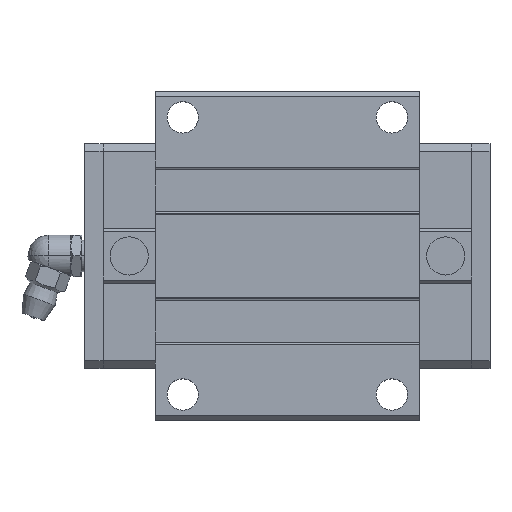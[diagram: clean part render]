
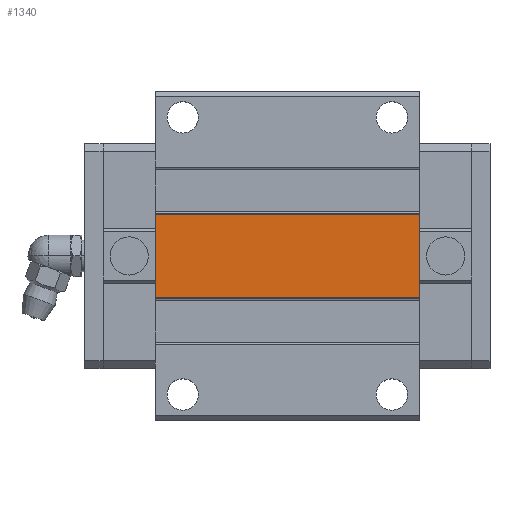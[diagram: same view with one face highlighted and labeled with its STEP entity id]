
A CAD part, top view. The second image highlights one B-rep face of the part: STEP entity #1340.
In plain terms, the highlighted planar face has unit normal (0, 0, 1).
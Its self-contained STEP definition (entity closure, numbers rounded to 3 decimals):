
#1279=CARTESIAN_POINT('POINT90',(64.,-8.,
   25.4));
#1280=VERTEX_POINT('VERTEX90',#1279);
#1287=CARTESIAN_POINT('POINT91',(13.5,-8.,
   25.4));
#1288=VERTEX_POINT('VERTEX91',#1287);
#1289=CARTESIAN_POINT('POS128',(13.5,-8.,
   25.4));
#1290=DIRECTION('DIR186',(1.,0.,0.));
#1291=VECTOR('VEC70',#1290,1.);
#1292=LINE('STRAIGHT70',#1289,#1291);
#1293=EDGE_CURVE('EDGE122',#1288,#1280,#1292,.T.);
#1310=CARTESIAN_POINT('POINT92',(64.,8.,25.4));
#1311=VERTEX_POINT('VERTEX92',#1310);
#1312=CARTESIAN_POINT('POS131',(64.,-8.,
   25.4));
#1313=DIRECTION('DIR190',(0.,1.,0.));
#1314=VECTOR('VEC72',#1313,1.);
#1315=LINE('STRAIGHT72',#1312,#1314);
#1316=EDGE_CURVE('EDGE124',#1280,#1311,#1315,.T.);
#1317=ORIENTED_EDGE('COEDGE187',*,*,#1316,.T.);
#1318=CARTESIAN_POINT('POINT93',(13.5,8.,25.4));
#1319=VERTEX_POINT('VERTEX93',#1318);
#1320=CARTESIAN_POINT('POS132',(13.5,8.,25.4));
#1321=DIRECTION('DIR191',(1.,0.,0.));
#1322=VECTOR('VEC73',#1321,1.);
#1323=LINE('STRAIGHT73',#1320,#1322);
#1324=EDGE_CURVE('EDGE125',#1319,#1311,#1323,.T.);
#1325=ORIENTED_EDGE('COEDGE188',*,*,#1324,.F.);
#1326=CARTESIAN_POINT('POS133',(13.5,-8.,
   25.4));
#1327=DIRECTION('DIR192',(0.,1.,0.));
#1328=VECTOR('VEC74',#1327,1.);
#1329=LINE('STRAIGHT74',#1326,#1328);
#1330=EDGE_CURVE('EDGE126',#1288,#1319,#1329,.T.);
#1331=ORIENTED_EDGE('COEDGE189',*,*,#1330,.F.);
#1332=ORIENTED_EDGE('COEDGE190',*,*,#1293,.T.);
#1333=EDGE_LOOP('NONE',(#1317,#1325,#1331,#1332));
#1334=FACE_BOUND('LOOP1',#1333,.T.);
#1335=CARTESIAN_POINT('POS134',(13.5,-8.,
   25.4));
#1336=DIRECTION('DIR193',(0.,0.,1.));
#1337=DIRECTION('DIR194',(1.,0.,0.));
#1338=AXIS2_PLACEMENT_3D('AXIS60',#1335,#1336,#1337);
#1339=PLANE('PLANE16',#1338);
#1340=ADVANCED_FACE('FACE37',(#1334),#1339,.T.);
